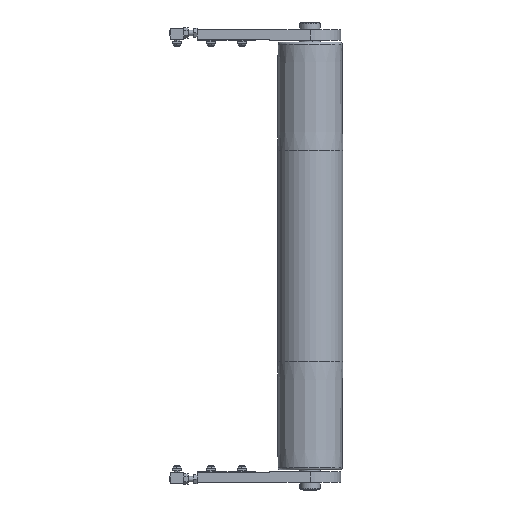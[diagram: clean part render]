
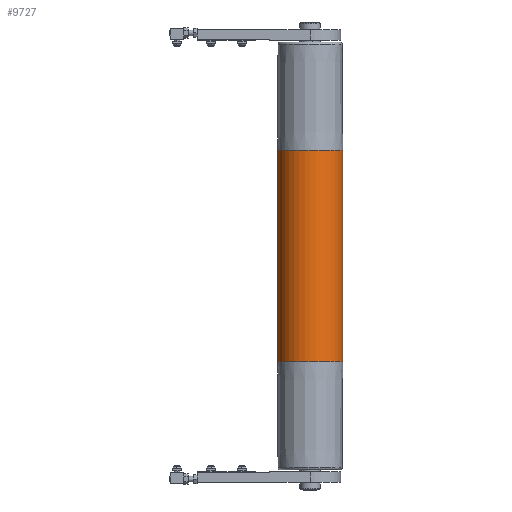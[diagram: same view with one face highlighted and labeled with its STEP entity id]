
A CAD part, front view. The second image highlights one B-rep face of the part: STEP entity #9727.
In plain terms, the highlighted cylindrical face has radius 47.5 mm (diameter 95 mm), a partial arc.
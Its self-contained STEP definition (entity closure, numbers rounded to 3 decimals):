
#298 = CARTESIAN_POINT ( 'NONE',  ( -155., 0., -47.5 ) ) ;
#641 = DIRECTION ( 'NONE',  ( -1., 0., 0. ) ) ;
#944 = DIRECTION ( 'NONE',  ( 1., 0., 0. ) ) ;
#1051 = DIRECTION ( 'NONE',  ( -1., 0., 0. ) ) ;
#1541 = VERTEX_POINT ( 'NONE', #2286 ) ;
#1860 = CIRCLE ( 'NONE', #12867, 47.5 ) ;
#2286 = CARTESIAN_POINT ( 'NONE',  ( 155., 0., -47.5 ) ) ;
#2967 = CARTESIAN_POINT ( 'NONE',  ( -155., 0., 0. ) ) ;
#3812 = VECTOR ( 'NONE', #1051, 1000. ) ;
#4185 = EDGE_CURVE ( 'NONE', #10286, #8678, #7918, .T. ) ;
#4789 = VECTOR ( 'NONE', #641, 1000. ) ;
#4846 = AXIS2_PLACEMENT_3D ( 'NONE', #2967, #11397, #13575 ) ;
#5130 = LINE ( 'NONE', #13422, #4789 ) ;
#5301 = DIRECTION ( 'NONE',  ( -1., 0., 0. ) ) ;
#5511 = CYLINDRICAL_SURFACE ( 'NONE', #10937, 47.5 ) ;
#5563 = ORIENTED_EDGE ( 'NONE', *, *, #13594, .T. ) ;
#5847 = ORIENTED_EDGE ( 'NONE', *, *, #9048, .F. ) ;
#6265 = CARTESIAN_POINT ( 'NONE',  ( 155., 0., 0. ) ) ;
#6637 = LINE ( 'NONE', #12553, #3812 ) ;
#7918 = CIRCLE ( 'NONE', #4846, 47.5 ) ;
#7997 = FACE_OUTER_BOUND ( 'NONE', #12376, .T. ) ;
#8322 = DIRECTION ( 'NONE',  ( 0., 0., 1. ) ) ;
#8428 = DIRECTION ( 'NONE',  ( 0., 0., -1. ) ) ;
#8678 = VERTEX_POINT ( 'NONE', #298 ) ;
#9048 = EDGE_CURVE ( 'NONE', #9347, #1541, #1860, .T. ) ;
#9343 = CARTESIAN_POINT ( 'NONE',  ( 310., 0., 0. ) ) ;
#9347 = VERTEX_POINT ( 'NONE', #9760 ) ;
#9589 = ORIENTED_EDGE ( 'NONE', *, *, #12119, .F. ) ;
#9727 = ADVANCED_FACE ( 'NONE', ( #7997 ), #5511, .T. ) ;
#9760 = CARTESIAN_POINT ( 'NONE',  ( 155., 0., 47.5 ) ) ;
#10286 = VERTEX_POINT ( 'NONE', #11392 ) ;
#10407 = ORIENTED_EDGE ( 'NONE', *, *, #4185, .T. ) ;
#10937 = AXIS2_PLACEMENT_3D ( 'NONE', #9343, #5301, #8322 ) ;
#11392 = CARTESIAN_POINT ( 'NONE',  ( -155., 0., 47.5 ) ) ;
#11397 = DIRECTION ( 'NONE',  ( 1., 0., 0. ) ) ;
#12119 = EDGE_CURVE ( 'NONE', #1541, #8678, #5130, .T. ) ;
#12376 = EDGE_LOOP ( 'NONE', ( #9589, #5847, #5563, #10407 ) ) ;
#12553 = CARTESIAN_POINT ( 'NONE',  ( 310., 0., 47.5 ) ) ;
#12867 = AXIS2_PLACEMENT_3D ( 'NONE', #6265, #944, #8428 ) ;
#13422 = CARTESIAN_POINT ( 'NONE',  ( 310., 0., -47.5 ) ) ;
#13575 = DIRECTION ( 'NONE',  ( 0., 0., -1. ) ) ;
#13594 = EDGE_CURVE ( 'NONE', #9347, #10286, #6637, .T. ) ;
